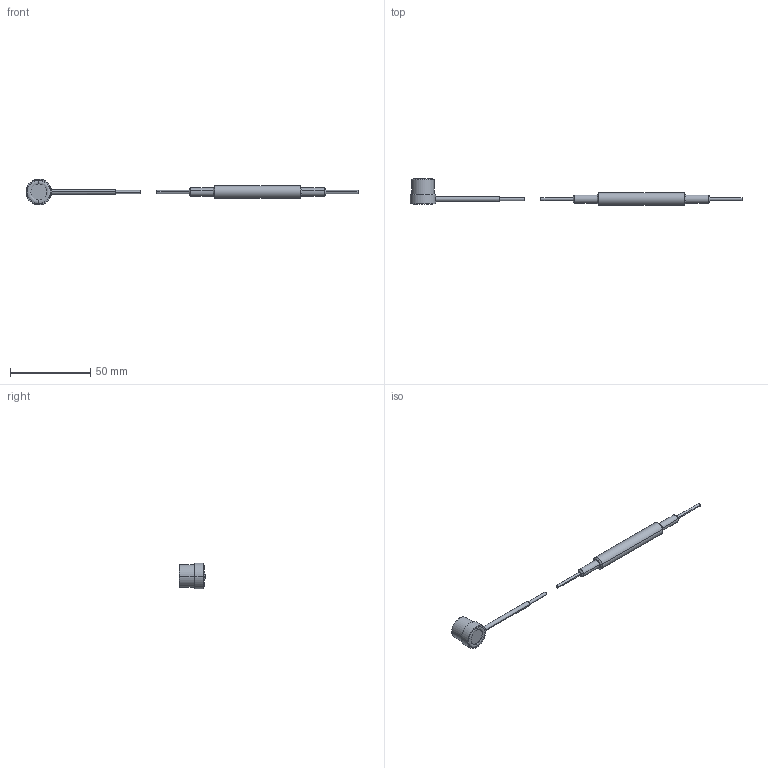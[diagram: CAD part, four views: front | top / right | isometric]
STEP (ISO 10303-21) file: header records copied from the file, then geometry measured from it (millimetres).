
FILE_DESCRIPTION(('STEP AP203'),'1');
FILE_NAME('C:/TPO v2/SharedFS/Outgoing/burster_8402-6020_6qs6f1ri3krgx8fwkyanr64cs.stp','2013-08-27T15:24:53',('TraceParts'),('TraceParts S.A.'),'XStep 1.0',' ',' ');
FILE_SCHEMA(('CONFIG_CONTROL_DESIGN'));
Length unit declared in the file: millimetre
Products named in the file (2): 1; 2
Bounding box: 206.45 x 16.79 x 15.9 mm (x, y, z)
Volume: 6369.5 mm3; surface area: 3694.2 mm2
Topology: 2 solids, 2 shells, 50 faces, 112 edges, 73 vertices
Faces by surface type: cylinder 20, plane 11, torus 10, cone 8, sphere 1
Entity records: 1585 total; most frequent: CARTESIAN_POINT 307, DIRECTION 291, ORIENTED_EDGE 224, AXIS2_PLACEMENT_3D 131, EDGE_CURVE 112, CIRCLE 79, VERTEX_POINT 73, EDGE_LOOP 57
